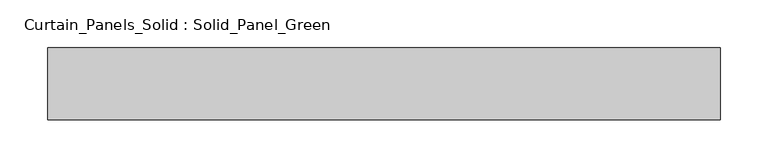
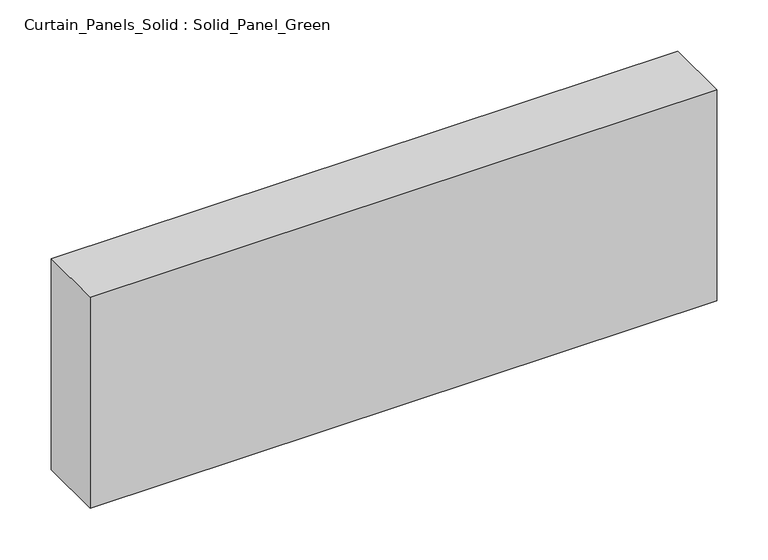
"""IFC4 building model written with IfcOpenShell, lengths in millimetres: plate geometry, Curtain_Panels_Solid : Solid_Panel_Green."""

from ifc_helpers import new_model, si_unit, origin, origin_with_axes, place, context, project, spatial, polyline, outline, extrude, source, transform, mapped, element, save


def curtain_panels_solid_solid_panel_green_b0af562b(model_context):
    return source(origin(), model_context, "Body", "SweptSolid", [
        extrude(outline(polyline([(351.2499999, -25.0), (-351.2499999, -25.0), (-351.2499999, 50.0), (351.2499999, 50.0), (351.2499999, -25.0)])), origin_with_axes(), (0.0, 0.0, 1.0), 250.0),
    ])


if __name__ == "__main__":
    model = new_model("IFC4")
    model_context = context("Model", 3, world=origin())
    ifc_project = project(units=[si_unit("LENGTHUNIT", "METRE", prefix="MILLI")], contexts=[model_context])
    site = spatial("IfcSite", under=ifc_project)
    building = spatial("IfcBuilding", under=site)
    placement = place(None, origin())
    curtain_panels_solid_solid_panel_green_shape = curtain_panels_solid_solid_panel_green_b0af562b(model_context)
    element("IfcPlate", 1, ObjectType="Curtain_Panels_Solid : Solid_Panel_Green", at=placement, inside=building, context=model_context, shape_type="MappedRepresentation", body=[
        mapped(curtain_panels_solid_solid_panel_green_shape, transform((0.0, 0.0, 0.0), x_axis=(1.0, 0.0, 0.0), y_axis=(0.0, 1.0, 0.0), z_axis=(0.0, 0.0, 1.0))),
    ])
    save(model, "model.ifc")
